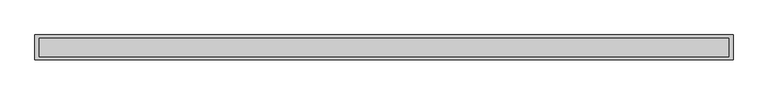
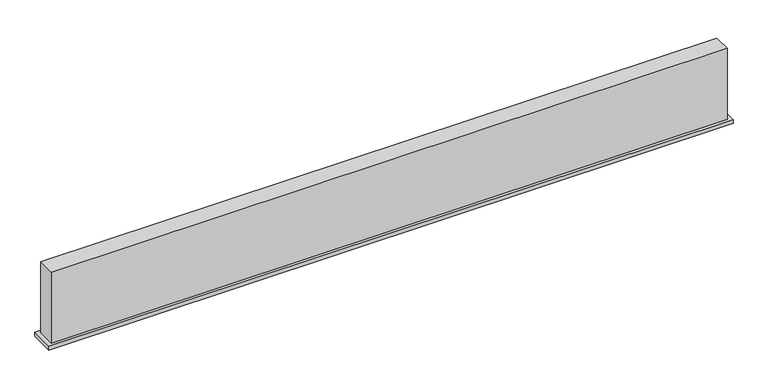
"""IFC4 building model written with IfcOpenShell, lengths in millimetres: air terminal geometry, 033_線状吹出口_BL : BL-S."""

import ifcopenshell
import ifcopenshell.guid

model = None  # the IFC model being written
_history = None  # IfcOwnerHistory: only IFC2X3 demands one
_inside = {}  # id of a spatial element -> (the spatial element, [elements in it])
_under = {}  # id of a project, library or spatial element -> (it, [spatial elements below it])
_declared = {}  # id of a project -> (the project, [libraries it declares])
_typed = {}  # id of a type object -> (the type object, [elements of that type])
_made_of = {}  # id of a material, layer set ... -> (it, [elements and type objects made of it])


def new_model(schema):
    """Start an empty IFC model of exactly this schema.

    Asked for "IFC4X3", IfcOpenShell would pick the latest addendum, in which some entities
    have other attributes; the version numbers below select the first issue.
    IFC2X3 requires an IfcOwnerHistory on every rooted entity: one is made here for all.
    """
    global model, _history
    if schema == "IFC4X3":
        model = ifcopenshell.file(schema_version=(4, 3, 0, 0))
    else:
        model = ifcopenshell.file(schema=schema)
    _inside.clear()
    _under.clear()
    _declared.clear()
    _typed.clear()
    _made_of.clear()
    _history = None
    if model.schema == "IFC2X3":
        org = make("IfcOrganization", Name="unknown")
        user = make(
            "IfcPersonAndOrganization",
            ThePerson=make("IfcPerson", FamilyName="unknown"),
            TheOrganization=org,
        )
        app = make(
            "IfcApplication",
            ApplicationDeveloper=org,
            Version="unknown",
            ApplicationFullName="unknown",
            ApplicationIdentifier="unknown",
        )
        _history = make(
            "IfcOwnerHistory",
            OwningUser=user,
            OwningApplication=app,
            ChangeAction="ADDED",
            CreationDate=0,
        )
    return model


def make(cls, **values):
    """One entity of the class cls with the attributes given. An attribute that is None is left unset."""
    return model.create_entity(
        cls, **{name: value for name, value in values.items() if value is not None}
    )


def rooted(cls, **values):
    """An entity with a GlobalId (a new one), such as an element, a storey or a relation."""
    return make(cls, GlobalId=ifcopenshell.guid.new(), OwnerHistory=_history, **values)


def si_unit(unit_type, name, prefix=None):
    """IfcSIUnit, for example si_unit("LENGTHUNIT", "METRE", prefix="MILLI")."""
    return make("IfcSIUnit", UnitType=unit_type, Prefix=prefix, Name=name)


def assignment(units):
    """IfcUnitAssignment: the units of a project."""
    return None if units is None else make("IfcUnitAssignment", Units=units)


def point(xyz):
    """IfcCartesianPoint."""
    return None if xyz is None else make("IfcCartesianPoint", Coordinates=xyz)


def direction(xyz):
    """IfcDirection."""
    return None if xyz is None else make("IfcDirection", DirectionRatios=xyz)


def frame(location, z_axis=None, x_axis=None):
    """IfcAxis2Placement3D, a coordinate frame: its origin and axes. An axis left out is left unset."""
    return make(
        "IfcAxis2Placement3D",
        Location=point(location),
        Axis=direction(z_axis),
        RefDirection=direction(x_axis),
    )


def origin():
    """The frame at (0, 0, 0) with its axes left unset."""
    return frame((0.0, 0.0, 0.0))


def origin_with_axes():
    """The frame at (0, 0, 0) with the z axis (0, 0, 1) and the x axis (1, 0, 0) written out."""
    return frame((0.0, 0.0, 0.0), z_axis=(0.0, 0.0, 1.0), x_axis=(1.0, 0.0, 0.0))


def place(relative_to, where):
    """IfcLocalPlacement: puts the frame where relative to a parent placement (None: the world)."""
    return make(
        "IfcLocalPlacement", PlacementRelTo=relative_to, RelativePlacement=where
    )


def context(
    kind, dimensions, precision=None, world=None, true_north=None, identifier=None
):
    """IfcGeometricRepresentationContext, for example the 3D "Model" context."""
    return make(
        "IfcGeometricRepresentationContext",
        ContextIdentifier=identifier,
        ContextType=kind,
        CoordinateSpaceDimension=dimensions,
        Precision=precision,
        WorldCoordinateSystem=world,
        TrueNorth=true_north,
    )


def project(units=None, contexts=None):
    """IfcProject with its units and contexts."""
    return rooted(
        "IfcProject",
        Name="project",
        RepresentationContexts=contexts,
        UnitsInContext=assignment(units),
    )


def spatial(cls, under=None, at=None, **own):
    """A site, building, storey or space (cls), placed at a placement, below another one or the project."""
    s = rooted(cls, ObjectPlacement=at, **own)
    if under is not None:
        _under.setdefault(under.id(), (under, []))[1].append(s)
    return s


def polyline(points):
    """IfcPolyline through the points."""
    return make("IfcPolyline", Points=[point(p) for p in points])


def outline(outer, holes=None, kind="AREA"):
    """IfcArbitraryClosedProfileDef: a profile drawn as a closed curve; with holes, ...WithVoids."""
    if holes is None:
        return make("IfcArbitraryClosedProfileDef", ProfileType=kind, OuterCurve=outer)
    return make(
        "IfcArbitraryProfileDefWithVoids",
        ProfileType=kind,
        OuterCurve=outer,
        InnerCurves=holes,
    )


def extrude(swept, where, along, depth):
    """IfcExtrudedAreaSolid: the profile swept, set in the frame where, extruded along a direction by depth."""
    return make(
        "IfcExtrudedAreaSolid",
        SweptArea=swept,
        Position=where,
        ExtrudedDirection=direction(along),
        Depth=depth,
    )


def shape(context_of_items, identifier, shape_type, items):
    """IfcShapeRepresentation: the items that make up one representation, for example the "Body"."""
    return make(
        "IfcShapeRepresentation",
        ContextOfItems=context_of_items,
        RepresentationIdentifier=identifier,
        RepresentationType=shape_type,
        Items=items,
    )


def source(mapping_origin, context_of_items, identifier, shape_type, items):
    """IfcRepresentationMap: a shape defined once, which mapped items show again and again."""
    return make(
        "IfcRepresentationMap",
        MappingOrigin=mapping_origin,
        MappedRepresentation=shape(context_of_items, identifier, shape_type, items),
    )


def transform(
    local_origin,
    x_axis=None,
    y_axis=None,
    z_axis=None,
    scale=None,
    scale2=None,
    scale3=None,
    uniform=True,
):
    """IfcCartesianTransformationOperator3D, or its non-uniform kind. x_axis, y_axis, z_axis: its Axis1, 2, 3."""
    if uniform:
        return make(
            "IfcCartesianTransformationOperator3D",
            Axis1=direction(x_axis),
            Axis2=direction(y_axis),
            LocalOrigin=point(local_origin),
            Scale=scale,
            Axis3=direction(z_axis),
        )
    return make(
        "IfcCartesianTransformationOperator3DnonUniform",
        Axis1=direction(x_axis),
        Axis2=direction(y_axis),
        LocalOrigin=point(local_origin),
        Scale=scale,
        Axis3=direction(z_axis),
        Scale2=scale2,
        Scale3=scale3,
    )


def mapped(mapping_source, mapping_target):
    """IfcMappedItem: shows the shape of a source again, moved by a transform."""
    return make(
        "IfcMappedItem", MappingSource=mapping_source, MappingTarget=mapping_target
    )


def made_of(thing, what):
    """Note that an element or type object is made of a material, layer set ...; save() writes the relation."""
    if what is not None:
        _made_of.setdefault(what.id(), (what, []))[1].append(thing)
    return thing


def element(
    cls,
    number,
    at=None,
    inside=None,
    cuts=None,
    type_object=None,
    material=None,
    context=None,
    identifier="Body",
    shape_type=None,
    held_by="IfcProductDefinitionShape",
    body=None,
    shapes=None,
    **own,
):
    """One element of the class cls, such as IfcWall. Its Tag is "e" and its number.

    at: its placement. inside: the storey or other place that contains it. cuts: it is an
    opening in that element (IfcRelVoidsElement). A single representation is given by context,
    identifier, shape_type and body (its items); several are given by shapes. held_by: the class
    of the entity that holds the representations. save() writes the other relations.
    """
    e = rooted(cls, Tag="e%d" % number, ObjectPlacement=at, **own)
    if body is not None:
        shapes = [shape(context, identifier, shape_type, body)]
    if shapes is not None:
        e.Representation = make(held_by, Representations=shapes)
    if inside is not None:
        _inside.setdefault(inside.id(), (inside, []))[1].append(e)
    if cuts is not None:
        rooted(
            "IfcRelVoidsElement", RelatingBuildingElement=cuts, RelatedOpeningElement=e
        )
    if type_object is not None:
        _typed.setdefault(type_object.id(), (type_object, []))[1].append(e)
    return made_of(e, material)


def aggregate(whole, parts):
    """IfcRelAggregates: a whole, such as a stair, and the parts it consists of."""
    return rooted("IfcRelAggregates", RelatingObject=whole, RelatedObjects=parts)


def save(model, path):
    """Write the relations noted so far, then the file.

    IfcRelAggregates (storeys below a building ...), IfcRelContainedInSpatialStructure (elements
    in a storey), IfcRelDefinesByType, IfcRelAssociatesMaterial and IfcRelDeclares: one each for
    every whole, place, type object, material and project.
    """
    for whole, parts in _under.values():
        aggregate(whole, parts)
    for where, things in _inside.values():
        rooted(
            "IfcRelContainedInSpatialStructure",
            RelatedElements=things,
            RelatingStructure=where,
        )
    for kind, things in _typed.values():
        rooted("IfcRelDefinesByType", RelatedObjects=things, RelatingType=kind)
    for what, things in _made_of.values():
        rooted("IfcRelAssociatesMaterial", RelatedObjects=things, RelatingMaterial=what)
    for by, libraries in _declared.values():
        rooted("IfcRelDeclares", RelatingContext=by, RelatedDefinitions=libraries)
    model.write(path)


def air_terminal_ae199f19(model_context):
    return source(origin(), model_context, "Body", "SweptSolid", [
        extrude(outline(polyline([(911.0, -32.5), (-911.0, -32.5), (-911.0, 32.5), (911.0, 32.5), (911.0, -32.5)]), holes=[polyline([(900.0, -24.0), (900.0, 24.0), (-900.0, 24.0), (-900.0, -24.0), (900.0, -24.0)])]), frame((0.0, 0.0, -10.0), z_axis=(0.0, 0.0, 1.0), x_axis=(1.0, 0.0, 0.0)), (0.0, 0.0, 1.0), 10.0),
        extrude(outline(polyline([(900.0, 24.0), (900.0, -24.0), (-900.0, -24.0), (-900.0, 24.0), (900.0, 24.0)])), origin_with_axes(), (0.0, 0.0, 1.0), 200.0),
    ])


if __name__ == "__main__":
    model = new_model("IFC4")
    model_context = context("Model", 3, world=origin())
    ifc_project = project(units=[si_unit("LENGTHUNIT", "METRE", prefix="MILLI")], contexts=[model_context])
    site = spatial("IfcSite", under=ifc_project)
    building = spatial("IfcBuilding", under=site)
    placement = place(None, origin())
    air_terminal_shape = air_terminal_ae199f19(model_context)
    element("IfcAirTerminal", 1, ObjectType="033_線状吹出口_BL : BL-S", at=placement, inside=building, context=model_context, shape_type="MappedRepresentation", body=[
        mapped(air_terminal_shape, transform((0.0, 0.0, 0.0), x_axis=(1.0, 0.0, 0.0), y_axis=(0.0, 1.0, 0.0), z_axis=(0.0, 0.0, 1.0))),
    ])
    save(model, "model.ifc")
